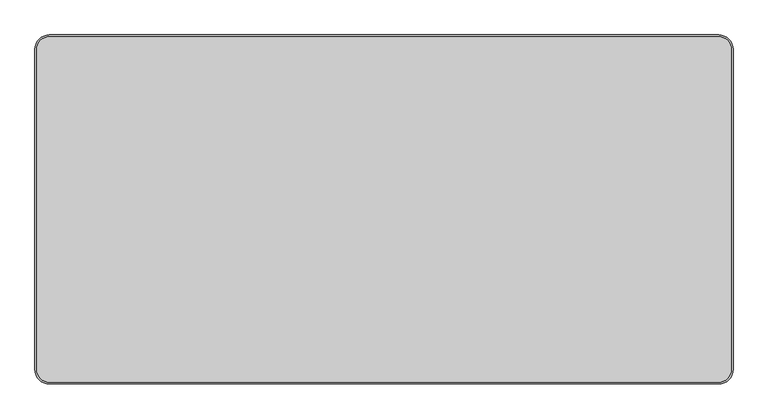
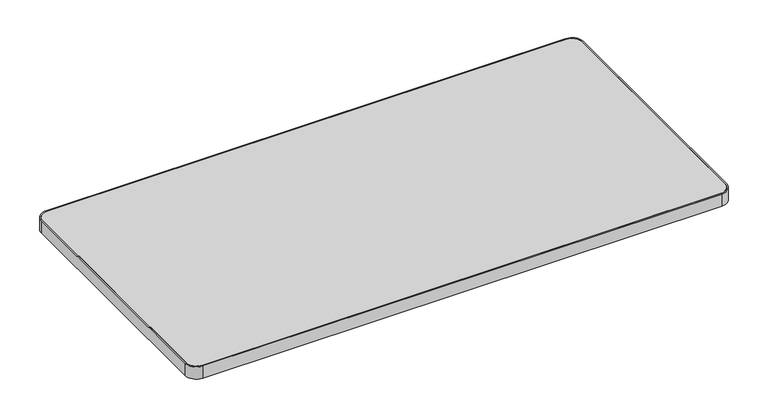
"""IFC4 building model written with IfcOpenShell, lengths in millimetres: furniture geometry, Steelcase - Groupwork - Table - Top - Rectangular : 24D x 48W - HPL."""

from ifc_helpers import new_model, si_unit, point, frame, frame_2d, origin, place, context, project, spatial, polyline, circle_curve, trimmed, segment, composite_curve, outline, extrude, source, transform, mapped, element, save


def furniture_bb55af10(model_context):
    return source(origin(), model_context, "Body", "SweptSolid", [
        extrude(outline(composite_curve([segment(polyline([(-612.14, 301.8), (555.34, 301.8)]), True, "CONTINUOUS"), segment(trimmed(circle_curve(frame_2d((555.34, 278.94)), 22.86), [point((555.34, 301.8))], [point((578.2, 278.94))], False, "CARTESIAN"), True, "CONTINUOUS"), segment(polyline([(578.2, 278.94), (578.2, -278.94)]), True, "CONTINUOUS"), segment(trimmed(circle_curve(frame_2d((555.34, -278.94)), 22.86), [point((578.2, -278.94))], [point((555.34, -301.8))], False, "CARTESIAN"), True, "CONTINUOUS"), segment(polyline([(555.34, -301.8), (-612.14, -301.8)]), True, "CONTINUOUS"), segment(trimmed(circle_curve(frame_2d((-612.14, -278.94)), 22.86), [point((-612.14, -301.8))], [point((-635.0, -278.94))], False, "CARTESIAN"), True, "CONTINUOUS"), segment(polyline([(-635.0, -278.94), (-635.0, 278.94)]), True, "CONTINUOUS"), segment(trimmed(circle_curve(frame_2d((-612.14, 278.94)), 22.86), [point((-635.0, 278.94))], [point((-612.14, 301.8))], False, "CARTESIAN"), True, "CONTINUOUS")], self_intersect=False)), frame((0.0, 0.0, 694.944), z_axis=(0.0, 0.0, 1.0), x_axis=(1.0, 0.0, 0.0)), (0.0, 0.0, 1.0), 28.956),
        extrude(outline(composite_curve([segment(trimmed(circle_curve(frame_2d((555.7385373, 279.3385373)), 25.4614627), [point((555.7385373, 304.8))], [point((581.2, 279.3385373))], False, "CARTESIAN"), True, "CONTINUOUS"), segment(polyline([(581.2, 279.3385373), (581.2, -279.4211297)]), True, "CONTINUOUS"), segment(trimmed(circle_curve(frame_2d((555.8211297, -279.4211297)), 25.3788703), [point((581.2, -279.4211297))], [point((555.8211297, -304.8))], False, "CARTESIAN"), True, "CONTINUOUS"), segment(polyline([(555.8211297, -304.8), (-612.6, -304.8)]), True, "CONTINUOUS"), segment(trimmed(circle_curve(frame_2d((-612.6, -279.4)), 25.4), [point((-612.6, -304.8))], [point((-638.0, -279.4))], False, "CARTESIAN"), True, "CONTINUOUS"), segment(polyline([(-638.0, -279.4), (-638.0, 279.4)]), True, "CONTINUOUS"), segment(trimmed(circle_curve(frame_2d((-612.6, 279.4)), 25.4), [point((-638.0, 279.4))], [point((-612.6, 304.8))], False, "CARTESIAN"), True, "CONTINUOUS"), segment(polyline([(-612.6, 304.8), (555.7385373, 304.8)]), True, "CONTINUOUS")], self_intersect=False), holes=[composite_curve([segment(polyline([(555.4064662, 301.8), (-612.14, 301.8)]), True, "CONTINUOUS"), segment(trimmed(circle_curve(frame_2d((-612.14, 278.94)), 22.86), [point((-612.14, 301.8))], [point((-635.0, 278.94))], True, "CARTESIAN"), True, "CONTINUOUS"), segment(polyline([(-635.0, 278.94), (-635.0, -278.94)]), True, "CONTINUOUS"), segment(trimmed(circle_curve(frame_2d((-612.14, -278.94)), 22.86), [point((-635.0, -278.94))], [point((-612.14, -301.8))], True, "CARTESIAN"), True, "CONTINUOUS"), segment(polyline([(-612.14, -301.8), (555.173488, -301.8)]), True, "CONTINUOUS"), segment(trimmed(circle_curve(frame_2d((555.173488, -278.773488)), 23.026512), [point((555.173488, -301.8))], [point((578.2, -278.773488))], True, "CARTESIAN"), True, "CONTINUOUS"), segment(polyline([(578.2, -278.773488), (578.2, 279.0064662)]), True, "CONTINUOUS"), segment(trimmed(circle_curve(frame_2d((555.4064662, 279.0064662)), 22.7935338), [point((578.2, 279.0064662))], [point((555.4064662, 301.8))], True, "CARTESIAN"), True, "CONTINUOUS")], self_intersect=False)]), frame((0.0, 0.0, 694.944), z_axis=(0.0, 0.0, 1.0), x_axis=(1.0, 0.0, 0.0)), (0.0, 0.0, 1.0), 28.956),
    ])


if __name__ == "__main__":
    model = new_model("IFC4")
    model_context = context("Model", 3, world=origin())
    ifc_project = project(units=[si_unit("LENGTHUNIT", "METRE", prefix="MILLI")], contexts=[model_context])
    site = spatial("IfcSite", under=ifc_project)
    building = spatial("IfcBuilding", under=site)
    placement = place(None, origin())
    furniture_shape = furniture_bb55af10(model_context)
    element("IfcFurniture", 1, ObjectType="Steelcase - Groupwork - Table - Top - Rectangular : 24D x 48W - HPL", at=placement, inside=building, context=model_context, shape_type="MappedRepresentation", body=[
        mapped(furniture_shape, transform((0.0, 0.0, 0.0), x_axis=(1.0, 0.0, 0.0), y_axis=(0.0, 1.0, 0.0), z_axis=(0.0, 0.0, 1.0))),
    ])
    save(model, "model.ifc")
